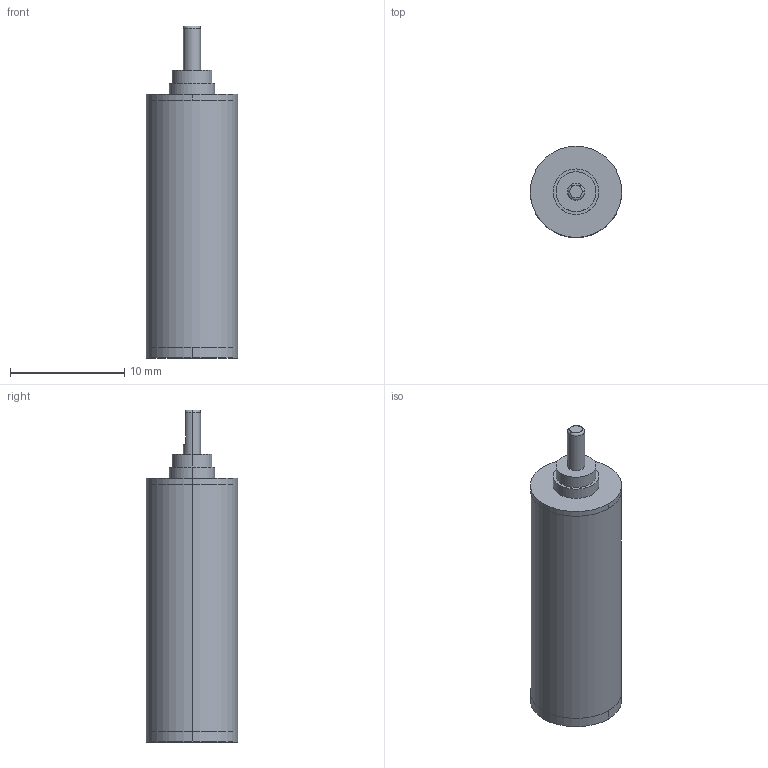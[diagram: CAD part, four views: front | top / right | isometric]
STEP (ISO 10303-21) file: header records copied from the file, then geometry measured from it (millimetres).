
FILE_DESCRIPTION (( 'STEP AP203' ), '1' );
FILE_NAME ('IG-08(I)-6stage.STEP', '2023-03-23T01:48:42', ( '' ), ( '' ), 'SwSTEP 2.0', 'SolidWorks 2019', '' );
FILE_SCHEMA (( 'CONFIG_CONTROL_DESIGN' ));
Length unit declared in the file: millimetre
Products named in the file (1): IG-08(I)-6stage
Bounding box: 8 x 8 x 29.1 mm (x, y, z)
Volume: 1236.9 mm3; surface area: 997.4 mm2
Topology: 3 solids, 3 shells, 35 faces, 66 edges, 43 vertices
Faces by surface type: cylinder 18, plane 14, torus 3
Entity records: 982 total; most frequent: DIRECTION 179, CARTESIAN_POINT 159, ORIENTED_EDGE 132, AXIS2_PLACEMENT_3D 79, EDGE_CURVE 66, CIRCLE 43, VERTEX_POINT 43, EDGE_LOOP 41
